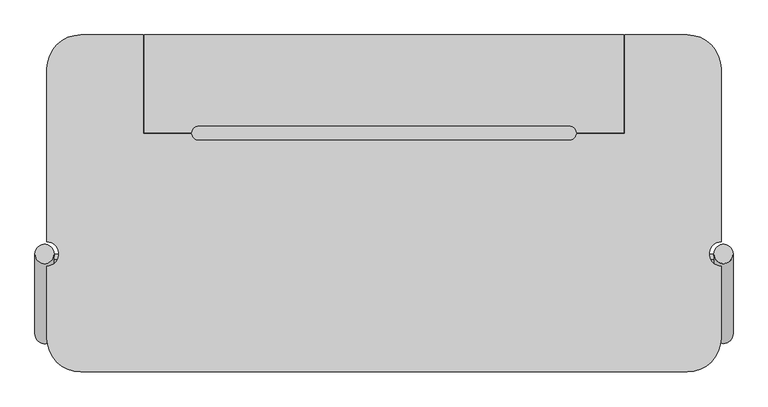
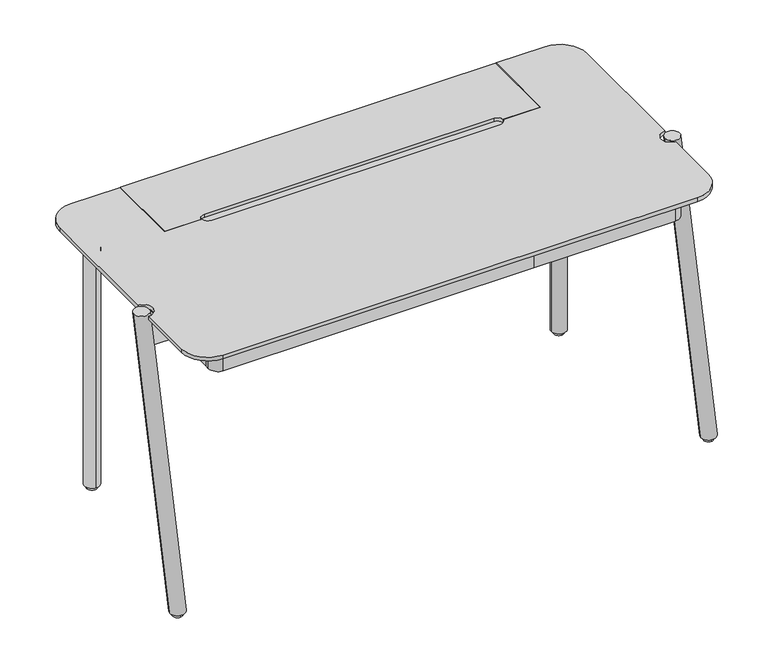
"""IFC4 building model written with IfcOpenShell, lengths in millimetres: furniture geometry, Desk_Friendly : Desk_Friendly."""

from ifc_helpers import new_model, si_unit, point, frame, frame_2d, origin, origin_with_axes, place, context, project, spatial, polyline, circle_curve, trimmed, segment, composite_curve, outline, extrude, source, transform, mapped, element, save
from ifc_brep_helpers import plane_surface, extruded_surface, advanced_brep


def furniture_3d6d2a71(model_context):
    return source(origin(), model_context, "Body", "SolidModel", [
        extrude(outline(composite_curve([segment(trimmed(circle_curve(frame_2d((620.0, -80.0)), 13.0), [point((620.0, -93.0))], [point((620.0, -67.0))], False, "CARTESIAN"), True, "CONTINUOUS"), segment(trimmed(circle_curve(frame_2d((620.0, -80.0)), 13.0), [point((620.0, -67.0))], [point((620.0, -93.0))], False, "CARTESIAN"), True, "CONTINUOUS")], self_intersect=False)), origin_with_axes(), (0.0, 0.0, 1.0), 10.0),
        extrude(outline(composite_curve([segment(trimmed(circle_curve(frame_2d((620.0, -80.0)), 20.0), [point((640.0, -80.0))], [point((600.0, -80.0))], False, "CARTESIAN"), True, "CONTINUOUS"), segment(trimmed(circle_curve(frame_2d((620.0, -80.0)), 20.0), [point((600.0, -80.0))], [point((640.0, -80.0))], False, "CARTESIAN"), True, "CONTINUOUS")], self_intersect=False)), frame((0.0, 0.0, 10.0), z_axis=(0.0, 0.0, 1.0), x_axis=(1.0, 0.0, 0.0)), (0.0, 0.0, 1.0), 714.9815203),
        extrude(outline(composite_curve([segment(trimmed(circle_curve(frame_2d((620.0, -80.0)), 20.0), [point((600.6350833, -85.0))], [point((615.0, -99.3649167))], True, "CARTESIAN"), True, "CONTINUOUS"), segment(polyline([(615.0, -99.3649167), (615.0, -615.0), (-615.0, -615.0), (-615.0, -99.3649167)]), True, "CONTINUOUS"), segment(trimmed(circle_curve(frame_2d((-620.0, -80.0)), 20.0), [point((-615.0, -99.3649167))], [point((-600.6350833, -85.0))], True, "CARTESIAN"), True, "CONTINUOUS"), segment(polyline([(-600.6350833, -85.0), (600.6350833, -85.0)]), True, "CONTINUOUS")], self_intersect=False)), frame((0.0, 0.0, 664.9815203), z_axis=(0.0, 0.0, 1.0), x_axis=(1.0, 0.0, 0.0)), (0.0, 0.0, 1.0), 10.0),
        advanced_brep(
        [(500.0, -465.7365026, 724.9815203), (500.0, -455.4879845, 724.9815203), (500.0, -468.94742, 664.9815203), (500.0, -479.195938, 664.9815203), (685.6675928, -479.195938, 664.9815203), (685.6675928, -465.7365026, 724.9815203), (685.6675928, -468.94742, 664.9815203), (685.0, -474.071679, 664.9815203), (685.6675928, -455.4879845, 724.9815203), (685.0, -460.6122435, 724.9815203), (725.0, -455.0, 750.0), (685.0, -455.0, 750.0), (725.0, -620.9997041, 10.0), (685.0, -620.9997041, 10.0)],
        [
            (0, 1),
            (1, 2),
            (2, 3),
            (3, 0),
            (3, 4),
            (4, 5),
            (5, 0),
            (2, 6),
            (6, 7, circle_curve(frame((705.0, -474.071679, 664.9815203), z_axis=(0.0, 0.0, 1.0), x_axis=(-1.0, 0.0, 0.0)), 20.0)),
            (7, 4, circle_curve(frame((705.0, -474.071679, 664.9815203), z_axis=(0.0, 0.0, 1.0), x_axis=(-1.0, 0.0, 0.0)), 20.0)),
            (1, 8),
            (8, 6),
            (5, 9, circle_curve(frame((705.0, -460.6122435, 724.9815203), z_axis=(0.0, 0.0, -1.0), x_axis=(-1.0, 0.0, 0.0)), 20.0)),
            (9, 8, circle_curve(frame((705.0, -460.6122435, 724.9815203), z_axis=(0.0, 0.0, -1.0), x_axis=(-1.0, 0.0, 0.0)), 20.0)),
            (10, 11, circle_curve(frame((705.0, -455.0, 750.0), z_axis=(0.0, 0.0, 1.0), x_axis=(-1.0, 0.0, 0.0)), 20.0)),
            (11, 10, circle_curve(frame((705.0, -455.0, 750.0), z_axis=(0.0, 0.0, 1.0), x_axis=(-1.0, 0.0, 0.0)), 20.0)),
            (12, 13, circle_curve(frame((705.0, -620.9997041, 10.0), z_axis=(0.0, 0.0, -1.0), x_axis=(-1.0, 0.0, 0.0)), 20.0)),
            (13, 12, circle_curve(frame((705.0, -620.9997041, 10.0), z_axis=(0.0, 0.0, -1.0), x_axis=(-1.0, 0.0, 0.0)), 20.0)),
            (11, 9),
            (7, 13),
            (12, 10),
        ],
        [
            plane_surface(frame((500.0, -465.7365026, 724.9815203), z_axis=(-1.0, 0.0, 0.0), x_axis=(0.0, 1.0, 0.0))),
            plane_surface(frame((500.0, -479.195938, 664.9815203), z_axis=(0.0, -0.9757508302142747, 0.21888425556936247), x_axis=(1.0, 0.0, 0.0))),
            plane_surface(frame((500.0, -468.94742, 664.9815203), z_axis=(0.0, 0.0, -1.0), x_axis=(1.0, 0.0, 0.0))),
            plane_surface(frame((500.0, -455.4879845, 724.9815203), z_axis=(0.0, 0.9757508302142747, -0.21888425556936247), x_axis=(1.0, 0.0, 0.0))),
            plane_surface(frame((500.0, -465.7365026, 724.9815203), z_axis=(0.0, 0.0, 1.0), x_axis=(1.0, 0.0, 0.0))),
            plane_surface(frame((705.0, -455.0, 750.0), z_axis=(0.0, 0.0, 1.0), x_axis=(0.0, 1.0, 0.0))),
            plane_surface(frame((705.0, -620.9997041, 10.0), z_axis=(0.0, 0.0, -1.0), x_axis=(0.0, 1.0, 0.0))),
            extruded_surface(trimmed(circle_curve(frame((705.0, -620.9997041, 10.0), z_axis=(0.0, 0.0, 1.0), x_axis=(-1.0, 0.0, 0.0)), 20.0), [point((685.0, -620.9997041, 10.0))], [point((725.0, -620.9997041, 10.0))], True, "CARTESIAN"), (0.0, 165.99970410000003, 740.0), 758.3903360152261),
            extruded_surface(trimmed(circle_curve(frame((705.0, -620.9997041, 10.0), z_axis=(0.0, 0.0, 1.0), x_axis=(-1.0, 0.0, 0.0)), 20.0), [point((725.0, -620.9997041, 10.0))], [point((685.0, -620.9997041, 10.0))], True, "CARTESIAN"), (0.0, 165.99970410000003, 740.0), 758.3903360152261),
        ],
        [
            (0, [[1, 2, 3, 4]]),
            (1, [[-4, 5, 6, 7]]),
            (2, [[-3, 8, 9, 10, -5]]),
            (3, [[-2, 11, 12, -8]]),
            (4, [[-1, -7, 13, 14, -11]]),
            (5, [[15, 16]]),
            (6, [[17, 18]]),
            (7, [[-16, 19, -13, -6, -10, 20, -17, 21]]),
            (8, [[-15, -21, -18, -20, -9, -12, -14, -19]]),
        ],
    ),
        advanced_brep(
        [(-625.0, -465.7365026, 724.9815203), (-625.0, -479.195938, 664.9815203), (-625.0, -468.94742, 664.9815203), (-625.0, -455.4879845, 724.9815203), (-685.6675928, -465.7365026, 724.9815203), (-685.6675928, -479.195938, 664.9815203), (-685.0, -474.071679, 664.9815203), (-685.6675928, -468.94742, 664.9815203), (-685.6675928, -455.4879845, 724.9815203), (-685.0, -460.6122435, 724.9815203), (-725.0, -455.0, 750.0), (-685.0, -455.0, 750.0), (-725.0, -620.9997041, 10.0), (-685.0, -620.9997041, 10.0)],
        [
            (0, 1),
            (1, 2),
            (2, 3),
            (3, 0),
            (0, 4),
            (4, 5),
            (5, 1),
            (5, 6, circle_curve(frame((-705.0, -474.071679, 664.9815203), z_axis=(0.0, 0.0, 1.0), x_axis=(1.0, 0.0, 0.0)), 20.0)),
            (6, 7, circle_curve(frame((-705.0, -474.071679, 664.9815203), z_axis=(0.0, 0.0, 1.0), x_axis=(1.0, 0.0, 0.0)), 20.0)),
            (7, 2),
            (7, 8),
            (8, 3),
            (8, 9, circle_curve(frame((-705.0, -460.6122435, 724.9815203), z_axis=(0.0, 0.0, -1.0), x_axis=(1.0, 0.0, 0.0)), 20.0)),
            (9, 4, circle_curve(frame((-705.0, -460.6122435, 724.9815203), z_axis=(0.0, 0.0, -1.0), x_axis=(1.0, 0.0, 0.0)), 20.0)),
            (10, 11, circle_curve(frame((-705.0, -455.0, 750.0), z_axis=(0.0, 0.0, 1.0), x_axis=(1.0, 0.0, 0.0)), 20.0)),
            (11, 10, circle_curve(frame((-705.0, -455.0, 750.0), z_axis=(0.0, 0.0, 1.0), x_axis=(1.0, 0.0, 0.0)), 20.0)),
            (12, 13, circle_curve(frame((-705.0, -620.9997041, 10.0), z_axis=(0.0, 0.0, -1.0), x_axis=(1.0, 0.0, 0.0)), 20.0)),
            (13, 12, circle_curve(frame((-705.0, -620.9997041, 10.0), z_axis=(0.0, 0.0, -1.0), x_axis=(1.0, 0.0, 0.0)), 20.0)),
            (10, 12),
            (13, 6),
            (9, 11),
        ],
        [
            plane_surface(frame((-625.0, -479.195938, 664.9815203), z_axis=(1.0, 0.0, 0.0), x_axis=(0.0, -0.21888425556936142, -0.9757508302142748))),
            plane_surface(frame((-625.0, -465.7365026, 724.9815203), z_axis=(0.0, -0.9757508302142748, 0.21888425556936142), x_axis=(-1.0, 0.0, 0.0))),
            plane_surface(frame((-625.0, -479.195938, 664.9815203), z_axis=(0.0, 0.0, -1.0), x_axis=(-1.0, 0.0, 0.0))),
            plane_surface(frame((-625.0, -468.94742, 664.9815203), z_axis=(0.0, 0.9757508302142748, -0.21888425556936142), x_axis=(-1.0, 0.0, 0.0))),
            plane_surface(frame((-625.0, -455.4879845, 724.9815203), z_axis=(0.0, 0.0, 1.0), x_axis=(-1.0, 0.0, 0.0))),
            plane_surface(frame((-705.0, -455.0, 750.0), z_axis=(0.0, 0.0, 1.0), x_axis=(0.0, -1.0, 0.0))),
            plane_surface(frame((-705.0, -620.9997041, 10.0), z_axis=(0.0, 0.0, -1.0), x_axis=(0.0, -1.0, 0.0))),
            extruded_surface(trimmed(circle_curve(frame((-705.0, -620.9997041, 10.0), z_axis=(0.0, 0.0, 1.0), x_axis=(1.0, 0.0, 0.0)), 20.0), [point((-725.0, -620.9997041, 10.0))], [point((-685.0, -620.9997041, 10.0))], True, "CARTESIAN"), (0.0, 165.99970410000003, 740.0), 758.3903360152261),
            extruded_surface(trimmed(circle_curve(frame((-705.0, -620.9997041, 10.0), z_axis=(0.0, 0.0, 1.0), x_axis=(1.0, 0.0, 0.0)), 20.0), [point((-685.0, -620.9997041, 10.0))], [point((-725.0, -620.9997041, 10.0))], True, "CARTESIAN"), (0.0, 165.99970410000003, 740.0), 758.3903360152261),
        ],
        [
            (0, [[1, 2, 3, 4]]),
            (1, [[-1, 5, 6, 7]]),
            (2, [[-2, -7, 8, 9, 10]]),
            (3, [[-3, -10, 11, 12]]),
            (4, [[-4, -12, 13, 14, -5]]),
            (5, [[15, 16]]),
            (6, [[17, 18]]),
            (7, [[-15, 19, -18, 20, -8, -6, -14, 21]]),
            (8, [[-16, -21, -13, -11, -9, -20, -17, -19]]),
        ],
    ),
        extrude(outline(composite_curve([segment(polyline([(225.0, -615.0), (225.0, -650.0), (-600.0, -650.0)]), True, "CONTINUOUS"), segment(trimmed(circle_curve(frame_2d((-600.0, -625.0)), 25.0), [point((-600.0, -650.0))], [point((-625.0, -625.0))], False, "CARTESIAN"), True, "CONTINUOUS"), segment(polyline([(-625.0, -625.0), (-625.0, -615.0), (225.0, -615.0)]), True, "CONTINUOUS")], self_intersect=False)), frame((0.0, 0.0, 664.9815203), z_axis=(0.0, 0.0, 1.0), x_axis=(1.0, 0.0, 0.0)), (0.0, 0.0, 1.0), 60.0),
        extrude(outline(composite_curve([segment(polyline([(225.0, -615.0), (625.0, -615.0), (625.0, -625.0)]), True, "CONTINUOUS"), segment(trimmed(circle_curve(frame_2d((600.0, -625.0)), 25.0), [point((625.0, -625.0))], [point((600.0, -650.0))], False, "CARTESIAN"), True, "CONTINUOUS"), segment(polyline([(600.0, -650.0), (225.0, -650.0), (225.0, -615.0)]), True, "CONTINUOUS")], self_intersect=False)), frame((0.0, 0.0, 664.9815203), z_axis=(0.0, 0.0, 1.0), x_axis=(1.0, 0.0, 0.0)), (0.0, 0.0, 1.0), 60.0),
        extrude(outline(composite_curve([segment(trimmed(circle_curve(frame_2d((-620.0, -80.0)), 20.0), [point((-625.0, -99.3649167))], [point((-615.0, -99.3649167))], True, "CARTESIAN"), True, "CONTINUOUS"), segment(polyline([(-615.0, -99.3649167), (-615.0, -615.0), (-625.0, -615.0), (-625.0, -99.3649167)]), True, "CONTINUOUS")], self_intersect=False)), frame((0.0, 0.0, 664.9815203), z_axis=(0.0, 0.0, 1.0), x_axis=(1.0, 0.0, 0.0)), (0.0, 0.0, 1.0), 60.0),
        extrude(outline(composite_curve([segment(trimmed(circle_curve(frame_2d((620.0, -80.0)), 20.0), [point((600.6350833, -75.0))], [point((600.6350833, -85.0))], True, "CARTESIAN"), True, "CONTINUOUS"), segment(polyline([(600.6350833, -85.0), (-600.6350833, -85.0)]), True, "CONTINUOUS"), segment(trimmed(circle_curve(frame_2d((-620.0, -80.0)), 20.0), [point((-600.6350833, -85.0))], [point((-600.6350833, -75.0))], True, "CARTESIAN"), True, "CONTINUOUS"), segment(polyline([(-600.6350833, -75.0), (600.6350833, -75.0)]), True, "CONTINUOUS")], self_intersect=False)), frame((0.0, 0.0, 664.9815203), z_axis=(0.0, 0.0, 1.0), x_axis=(1.0, 0.0, 0.0)), (0.0, 0.0, 1.0), 60.0),
        extrude(outline(composite_curve([segment(polyline([(625.0, -99.3649167), (625.0, -615.0), (615.0, -615.0), (615.0, -99.3649167)]), True, "CONTINUOUS"), segment(trimmed(circle_curve(frame_2d((620.0, -80.0)), 20.0), [point((615.0, -99.3649167))], [point((625.0, -99.3649167))], True, "CARTESIAN"), True, "CONTINUOUS")], self_intersect=False)), frame((0.0, 0.0, 664.9815203), z_axis=(0.0, 0.0, 1.0), x_axis=(1.0, 0.0, 0.0)), (0.0, 0.0, 1.0), 60.0),
        extrude(outline(composite_curve([segment(trimmed(circle_curve(frame_2d((705.0, -620.9997041)), 13.0), [point((705.0, -633.9997041))], [point((705.0, -607.9997041))], False, "CARTESIAN"), True, "CONTINUOUS"), segment(trimmed(circle_curve(frame_2d((705.0, -620.9997041)), 13.0), [point((705.0, -607.9997041))], [point((705.0, -633.9997041))], False, "CARTESIAN"), True, "CONTINUOUS")], self_intersect=False)), origin_with_axes(), (0.0, 0.0, 1.0), 10.0),
        extrude(outline(composite_curve([segment(trimmed(circle_curve(frame_2d((-620.0, -80.0)), 13.0), [point((-633.0, -80.0))], [point((-607.0, -80.0))], False, "CARTESIAN"), True, "CONTINUOUS"), segment(trimmed(circle_curve(frame_2d((-620.0, -80.0)), 13.0), [point((-607.0, -80.0))], [point((-633.0, -80.0))], False, "CARTESIAN"), True, "CONTINUOUS")], self_intersect=False)), origin_with_axes(), (0.0, 0.0, 1.0), 10.0),
        extrude(outline(composite_curve([segment(trimmed(circle_curve(frame_2d((-705.0, -620.9997041)), 13.0), [point((-705.0, -633.9997041))], [point((-705.0, -607.9997041))], False, "CARTESIAN"), True, "CONTINUOUS"), segment(trimmed(circle_curve(frame_2d((-705.0, -620.9997041)), 13.0), [point((-705.0, -607.9997041))], [point((-705.0, -633.9997041))], False, "CARTESIAN"), True, "CONTINUOUS")], self_intersect=False)), origin_with_axes(), (0.0, 0.0, 1.0), 10.0),
        extrude(outline(composite_curve([segment(polyline([(-630.0, -35.0), (630.0, -35.0)]), True, "CONTINUOUS"), segment(trimmed(circle_curve(frame_2d((630.0, -70.0)), 35.0), [point((630.0, -35.0))], [point((665.0, -70.0))], False, "CARTESIAN"), True, "CONTINUOUS"), segment(polyline([(665.0, -70.0), (665.0, -630.0)]), True, "CONTINUOUS"), segment(trimmed(circle_curve(frame_2d((630.0, -630.0)), 35.0), [point((665.0, -630.0))], [point((630.0, -665.0))], False, "CARTESIAN"), True, "CONTINUOUS"), segment(polyline([(630.0, -665.0), (-630.0, -665.0)]), True, "CONTINUOUS"), segment(trimmed(circle_curve(frame_2d((-630.0, -630.0)), 35.0), [point((-630.0, -665.0))], [point((-665.0, -630.0))], False, "CARTESIAN"), True, "CONTINUOUS"), segment(polyline([(-665.0, -630.0), (-665.0, -70.0)]), True, "CONTINUOUS"), segment(trimmed(circle_curve(frame_2d((-630.0, -70.0)), 35.0), [point((-665.0, -70.0))], [point((-630.0, -35.0))], False, "CARTESIAN"), True, "CONTINUOUS")], self_intersect=False)), frame((0.0, 0.0, 724.9815203), z_axis=(0.0, 0.0, 1.0), x_axis=(1.0, 0.0, 0.0)), (0.0, 0.0, 1.0), 15.0),
        extrude(outline(composite_curve([segment(trimmed(circle_curve(frame_2d((-620.0, -80.0)), 20.0), [point((-620.0, -60.0))], [point((-620.0, -100.0))], False, "CARTESIAN"), True, "CONTINUOUS"), segment(trimmed(circle_curve(frame_2d((-620.0, -80.0)), 20.0), [point((-620.0, -100.0))], [point((-620.0, -60.0))], False, "CARTESIAN"), True, "CONTINUOUS")], self_intersect=False)), frame((0.0, 0.0, 10.0), z_axis=(0.0, 0.0, 1.0), x_axis=(1.0, 0.0, 0.0)), (0.0, 0.0, 1.0), 714.9815203),
        extrude(outline(composite_curve([segment(polyline([(-500.0, 0.0), (-500.0, -205.0), (-399.9099885, -205.0)]), True, "CONTINUOUS"), segment(trimmed(circle_curve(frame_2d((-385.0141401, -203.9317394)), 14.9341046), [point((-399.9099885, -205.0))], [point((-385.0141401, -218.865844))], True, "CARTESIAN"), True, "CONTINUOUS"), segment(polyline([(-385.0141401, -218.865844), (384.9424507, -218.865844)]), True, "CONTINUOUS"), segment(trimmed(circle_curve(frame_2d((384.9424507, -203.7500949)), 15.115749), [point((384.9424507, -218.865844))], [point((400.0064344, -205.0))], True, "CARTESIAN"), True, "CONTINUOUS"), segment(polyline([(400.0064344, -205.0), (500.0, -205.0), (500.0, 0.0), (630.0, 0.0)]), True, "CONTINUOUS"), segment(trimmed(circle_curve(frame_2d((630.0, -70.0)), 70.0), [point((630.0, 0.0))], [point((700.0, -70.0))], False, "CARTESIAN"), True, "CONTINUOUS"), segment(polyline([(700.0, -70.0), (700.0, -430.0)]), True, "CONTINUOUS"), segment(trimmed(circle_curve(frame_2d((700.0, -455.0)), 25.0), [point((700.0, -430.0))], [point((700.0, -480.0))], True, "CARTESIAN"), True, "CONTINUOUS"), segment(polyline([(700.0, -480.0), (700.0, -630.0)]), True, "CONTINUOUS"), segment(trimmed(circle_curve(frame_2d((630.0, -630.0)), 70.0), [point((700.0, -630.0))], [point((630.0, -700.0))], False, "CARTESIAN"), True, "CONTINUOUS"), segment(polyline([(630.0, -700.0), (-630.0, -700.0)]), True, "CONTINUOUS"), segment(trimmed(circle_curve(frame_2d((-630.0, -630.0)), 70.0), [point((-630.0, -700.0))], [point((-700.0, -630.0))], False, "CARTESIAN"), True, "CONTINUOUS"), segment(polyline([(-700.0, -630.0), (-700.0, -480.0)]), True, "CONTINUOUS"), segment(trimmed(circle_curve(frame_2d((-700.0, -455.0)), 25.0), [point((-700.0, -480.0))], [point((-700.0, -430.0))], True, "CARTESIAN"), True, "CONTINUOUS"), segment(polyline([(-700.0, -430.0), (-700.0, -70.0)]), True, "CONTINUOUS"), segment(trimmed(circle_curve(frame_2d((-630.0, -70.0)), 70.0), [point((-700.0, -70.0))], [point((-630.0, 0.0))], False, "CARTESIAN"), True, "CONTINUOUS"), segment(polyline([(-630.0, 0.0), (-500.0, 0.0)]), True, "CONTINUOUS")], self_intersect=False)), frame((0.0, 0.0, 739.9815203), z_axis=(0.0, 0.0, 1.0), x_axis=(1.0, 0.0, 0.0)), (0.0, 0.0, 1.0), 10.0184797),
        extrude(outline(composite_curve([segment(polyline([(-399.9159366, -203.0), (-498.0, -203.0), (-498.0, 0.0), (498.0, 0.0), (498.0, -203.184913), (400.0476299, -203.184913)]), True, "CONTINUOUS"), segment(trimmed(circle_curve(frame_2d((385.0170492, -204.0780854)), 15.0570951), [point((400.0476299, -203.184913))], [point((385.0170492, -189.0209903))], True, "CARTESIAN"), True, "CONTINUOUS"), segment(polyline([(385.0170492, -189.0209903), (-384.9858599, -189.0209903)]), True, "CONTINUOUS"), segment(trimmed(circle_curve(frame_2d((-384.9858599, -203.9834201)), 14.9624298), [point((-384.9858599, -189.0209903))], [point((-399.9159366, -203.0))], True, "CARTESIAN"), True, "CONTINUOUS")], self_intersect=False)), frame((0.0, 0.0, 739.9815203), z_axis=(0.0, 0.0, 1.0), x_axis=(1.0, 0.0, 0.0)), (0.0, 0.0, 1.0), 10.0184797),
    ])


if __name__ == "__main__":
    model = new_model("IFC4")
    model_context = context("Model", 3, world=origin())
    ifc_project = project(units=[si_unit("LENGTHUNIT", "METRE", prefix="MILLI")], contexts=[model_context])
    site = spatial("IfcSite", under=ifc_project)
    building = spatial("IfcBuilding", under=site)
    placement = place(None, origin())
    furniture_shape = furniture_3d6d2a71(model_context)
    element("IfcFurniture", 1, ObjectType="Desk_Friendly : Desk_Friendly", at=placement, inside=building, context=model_context, shape_type="MappedRepresentation", body=[
        mapped(furniture_shape, transform((0.0, 0.0, 0.0), x_axis=(1.0, 0.0, 0.0), y_axis=(0.0, 1.0, 0.0), z_axis=(0.0, 0.0, 1.0))),
    ])
    save(model, "model.ifc")
